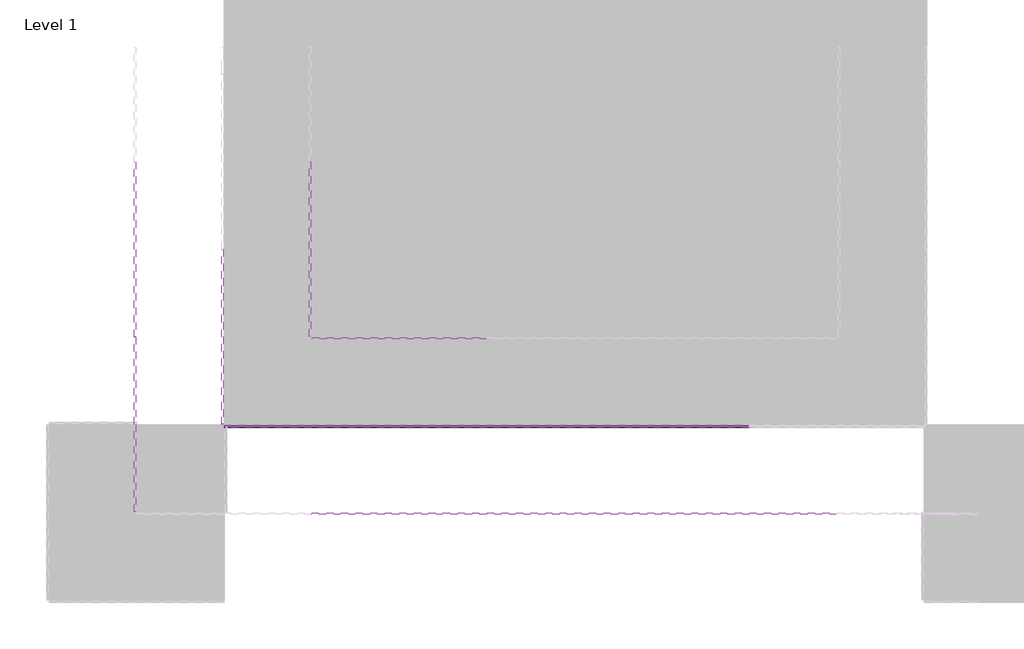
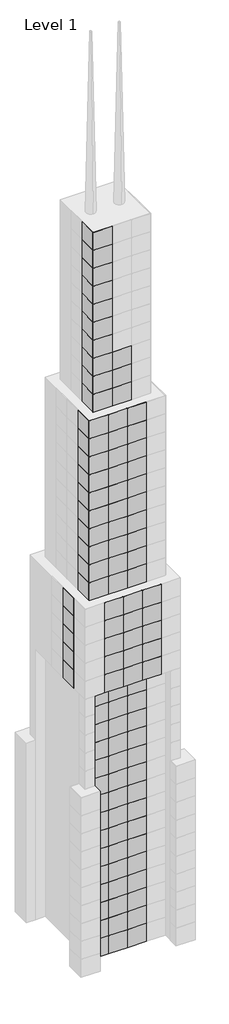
# One storey, part 5 of 15: 138 plates.
"""IFC4 building model written with IfcOpenShell, lengths in millimetres."""

from ifc_helpers import new_model, si_unit, origin, place, context, project, spatial, transform, mapped, element, save
from components import system_panel_glazed_0a0842ec, system_panel_glazed_aa64d645, system_panel_glazed_b248394d

model = new_model("IFC4")

# Units and contexts
model_context = context("Model", 3, world=origin())
ifc_project = project(units=[si_unit("LENGTHUNIT", "METRE", prefix="MILLI")], contexts=[model_context])

# Site, building, storey
site = spatial("IfcSite", under=ifc_project)
building = spatial("IfcBuilding", under=site)
storey = spatial("IfcBuildingStorey", under=building, Name="Level 1", Elevation=0.0)

# Plates
placement = place(None, origin())
system_panel_glazed_shape = system_panel_glazed_0a0842ec(model_context)
element("IfcPlate", 1, ObjectType="System Panel : Glazed", at=placement, inside=storey, context=model_context, shape_type="MappedRepresentation", body=[
    mapped(system_panel_glazed_shape, transform((36594.2903978, -3840.9095598, 45720.0), x_axis=(0.0, -1.0, 0.0), y_axis=(1.0, 0.0, 0.0), z_axis=(0.0, 0.0, 1.0))),
])
system_panel_glazed_2_shape = system_panel_glazed_aa64d645(model_context)
element("IfcPlate", 2, ObjectType="System Panel : Glazed", at=placement, inside=storey, context=model_context, shape_type="MappedRepresentation", body=[
    mapped(system_panel_glazed_2_shape, transform((41166.2903978, -5364.9095598, 45720.0), x_axis=(1.0, 0.0, 0.0), y_axis=(0.0, 1.0, 0.0), z_axis=(0.0, 0.0, 1.0))),
])
element("IfcPlate", 3, ObjectType="System Panel : Glazed", at=placement, inside=storey, context=model_context, shape_type="MappedRepresentation", body=[
    mapped(system_panel_glazed_2_shape, transform((44214.2903978, -5364.9095598, 45720.0), x_axis=(1.0, 0.0, 0.0), y_axis=(0.0, 1.0, 0.0), z_axis=(0.0, 0.0, 1.0))),
])
element("IfcPlate", 4, ObjectType="System Panel : Glazed", at=placement, inside=storey, context=model_context, shape_type="MappedRepresentation", body=[
    mapped(system_panel_glazed_2_shape, transform((47262.2903978, -5364.9095598, 45720.0), x_axis=(1.0, 0.0, 0.0), y_axis=(0.0, 1.0, 0.0), z_axis=(0.0, 0.0, 1.0))),
])
element("IfcPlate", 5, ObjectType="System Panel : Glazed", at=placement, inside=storey, context=model_context, shape_type="MappedRepresentation", body=[
    mapped(system_panel_glazed_2_shape, transform((41166.2903978, -5364.9095598, 48768.0), x_axis=(1.0, 0.0, 0.0), y_axis=(0.0, 1.0, 0.0), z_axis=(0.0, 0.0, 1.0))),
])
element("IfcPlate", 6, ObjectType="System Panel : Glazed", at=placement, inside=storey, context=model_context, shape_type="MappedRepresentation", body=[
    mapped(system_panel_glazed_2_shape, transform((44214.2903978, -5364.9095598, 48768.0), x_axis=(1.0, 0.0, 0.0), y_axis=(0.0, 1.0, 0.0), z_axis=(0.0, 0.0, 1.0))),
])
element("IfcPlate", 7, ObjectType="System Panel : Glazed", at=placement, inside=storey, context=model_context, shape_type="MappedRepresentation", body=[
    mapped(system_panel_glazed_2_shape, transform((47262.2903978, -5364.9095598, 48768.0), x_axis=(1.0, 0.0, 0.0), y_axis=(0.0, 1.0, 0.0), z_axis=(0.0, 0.0, 1.0))),
])
element("IfcPlate", 8, ObjectType="System Panel : Glazed", at=placement, inside=storey, context=model_context, shape_type="MappedRepresentation", body=[
    mapped(system_panel_glazed_2_shape, transform((41166.2903978, -5364.9095598, 51816.0), x_axis=(1.0, 0.0, 0.0), y_axis=(0.0, 1.0, 0.0), z_axis=(0.0, 0.0, 1.0))),
])
element("IfcPlate", 9, ObjectType="System Panel : Glazed", at=placement, inside=storey, context=model_context, shape_type="MappedRepresentation", body=[
    mapped(system_panel_glazed_2_shape, transform((44214.2903978, -5364.9095598, 51816.0), x_axis=(1.0, 0.0, 0.0), y_axis=(0.0, 1.0, 0.0), z_axis=(0.0, 0.0, 1.0))),
])
element("IfcPlate", 10, ObjectType="System Panel : Glazed", at=placement, inside=storey, context=model_context, shape_type="MappedRepresentation", body=[
    mapped(system_panel_glazed_2_shape, transform((47262.2903978, -5364.9095598, 51816.0), x_axis=(1.0, 0.0, 0.0), y_axis=(0.0, 1.0, 0.0), z_axis=(0.0, 0.0, 1.0))),
])
element("IfcPlate", 11, ObjectType="System Panel : Glazed", at=placement, inside=storey, context=model_context, shape_type="MappedRepresentation", body=[
    mapped(system_panel_glazed_2_shape, transform((41166.2903978, -5364.9095598, 54864.0), x_axis=(1.0, 0.0, 0.0), y_axis=(0.0, 1.0, 0.0), z_axis=(0.0, 0.0, 1.0))),
])
element("IfcPlate", 12, ObjectType="System Panel : Glazed", at=placement, inside=storey, context=model_context, shape_type="MappedRepresentation", body=[
    mapped(system_panel_glazed_2_shape, transform((44214.2903978, -5364.9095598, 54864.0), x_axis=(1.0, 0.0, 0.0), y_axis=(0.0, 1.0, 0.0), z_axis=(0.0, 0.0, 1.0))),
])
element("IfcPlate", 13, ObjectType="System Panel : Glazed", at=placement, inside=storey, context=model_context, shape_type="MappedRepresentation", body=[
    mapped(system_panel_glazed_2_shape, transform((47262.2903978, -5364.9095598, 54864.0), x_axis=(1.0, 0.0, 0.0), y_axis=(0.0, 1.0, 0.0), z_axis=(0.0, 0.0, 1.0))),
])
element("IfcPlate", 14, ObjectType="System Panel : Glazed", at=placement, inside=storey, context=model_context, shape_type="MappedRepresentation", body=[
    mapped(system_panel_glazed_2_shape, transform((41166.2903978, -5364.9095598, 57912.0), x_axis=(1.0, 0.0, 0.0), y_axis=(0.0, 1.0, 0.0), z_axis=(0.0, 0.0, 1.0))),
])
element("IfcPlate", 15, ObjectType="System Panel : Glazed", at=placement, inside=storey, context=model_context, shape_type="MappedRepresentation", body=[
    mapped(system_panel_glazed_2_shape, transform((44214.2903978, -5364.9095598, 57912.0), x_axis=(1.0, 0.0, 0.0), y_axis=(0.0, 1.0, 0.0), z_axis=(0.0, 0.0, 1.0))),
])
element("IfcPlate", 16, ObjectType="System Panel : Glazed", at=placement, inside=storey, context=model_context, shape_type="MappedRepresentation", body=[
    mapped(system_panel_glazed_2_shape, transform((47262.2903978, -5364.9095598, 57912.0), x_axis=(1.0, 0.0, 0.0), y_axis=(0.0, 1.0, 0.0), z_axis=(0.0, 0.0, 1.0))),
])
element("IfcPlate", 17, ObjectType="System Panel : Glazed", at=placement, inside=storey, context=model_context, shape_type="MappedRepresentation", body=[
    mapped(system_panel_glazed_2_shape, transform((36594.2903978, -792.9095598, 45720.0), x_axis=(0.0, -1.0, 0.0), y_axis=(1.0, 0.0, 0.0), z_axis=(0.0, 0.0, 1.0))),
])
element("IfcPlate", 18, ObjectType="System Panel : Glazed", at=placement, inside=storey, context=model_context, shape_type="MappedRepresentation", body=[
    mapped(system_panel_glazed_2_shape, transform((36594.2903978, -792.9095598, 48768.0), x_axis=(0.0, -1.0, 0.0), y_axis=(1.0, 0.0, 0.0), z_axis=(0.0, 0.0, 1.0))),
])
element("IfcPlate", 19, ObjectType="System Panel : Glazed", at=placement, inside=storey, context=model_context, shape_type="MappedRepresentation", body=[
    mapped(system_panel_glazed_2_shape, transform((36594.2903978, -792.9095598, 51816.0), x_axis=(0.0, -1.0, 0.0), y_axis=(1.0, 0.0, 0.0), z_axis=(0.0, 0.0, 1.0))),
])
element("IfcPlate", 20, ObjectType="System Panel : Glazed", at=placement, inside=storey, context=model_context, shape_type="MappedRepresentation", body=[
    mapped(system_panel_glazed_2_shape, transform((36594.2903978, -792.9095598, 54864.0), x_axis=(0.0, -1.0, 0.0), y_axis=(1.0, 0.0, 0.0), z_axis=(0.0, 0.0, 1.0))),
])
element("IfcPlate", 21, ObjectType="System Panel : Glazed", at=placement, inside=storey, context=model_context, shape_type="MappedRepresentation", body=[
    mapped(system_panel_glazed_2_shape, transform((36594.2903978, -792.9095598, 57912.0), x_axis=(0.0, -1.0, 0.0), y_axis=(1.0, 0.0, 0.0), z_axis=(0.0, 0.0, 1.0))),
])
element("IfcPlate", 22, ObjectType="System Panel : Glazed", at=placement, inside=storey, context=model_context, shape_type="MappedRepresentation", body=[
    mapped(system_panel_glazed_2_shape, transform((39642.2903978, -3840.9095598, 60960.0), x_axis=(1.0, 0.0, 0.0), y_axis=(0.0, 1.0, 0.0), z_axis=(0.0, 0.0, 1.0))),
])
element("IfcPlate", 23, ObjectType="System Panel : Glazed", at=placement, inside=storey, context=model_context, shape_type="MappedRepresentation", body=[
    mapped(system_panel_glazed_2_shape, transform((42690.2903978, -3840.9095598, 60960.0), x_axis=(1.0, 0.0, 0.0), y_axis=(0.0, 1.0, 0.0), z_axis=(0.0, 0.0, 1.0))),
])
element("IfcPlate", 24, ObjectType="System Panel : Glazed", at=placement, inside=storey, context=model_context, shape_type="MappedRepresentation", body=[
    mapped(system_panel_glazed_2_shape, transform((45738.2903978, -3840.9095598, 60960.0), x_axis=(1.0, 0.0, 0.0), y_axis=(0.0, 1.0, 0.0), z_axis=(0.0, 0.0, 1.0))),
])
element("IfcPlate", 25, ObjectType="System Panel : Glazed", at=placement, inside=storey, context=model_context, shape_type="MappedRepresentation", body=[
    mapped(system_panel_glazed_2_shape, transform((39642.2903978, -3840.9095598, 64008.0), x_axis=(1.0, 0.0, 0.0), y_axis=(0.0, 1.0, 0.0), z_axis=(0.0, 0.0, 1.0))),
])
element("IfcPlate", 26, ObjectType="System Panel : Glazed", at=placement, inside=storey, context=model_context, shape_type="MappedRepresentation", body=[
    mapped(system_panel_glazed_2_shape, transform((42690.2903978, -3840.9095598, 64008.0), x_axis=(1.0, 0.0, 0.0), y_axis=(0.0, 1.0, 0.0), z_axis=(0.0, 0.0, 1.0))),
])
element("IfcPlate", 27, ObjectType="System Panel : Glazed", at=placement, inside=storey, context=model_context, shape_type="MappedRepresentation", body=[
    mapped(system_panel_glazed_2_shape, transform((45738.2903978, -3840.9095598, 64008.0), x_axis=(1.0, 0.0, 0.0), y_axis=(0.0, 1.0, 0.0), z_axis=(0.0, 0.0, 1.0))),
])
element("IfcPlate", 28, ObjectType="System Panel : Glazed", at=placement, inside=storey, context=model_context, shape_type="MappedRepresentation", body=[
    mapped(system_panel_glazed_2_shape, transform((39642.2903978, -3840.9095598, 67056.0), x_axis=(1.0, 0.0, 0.0), y_axis=(0.0, 1.0, 0.0), z_axis=(0.0, 0.0, 1.0))),
])
element("IfcPlate", 29, ObjectType="System Panel : Glazed", at=placement, inside=storey, context=model_context, shape_type="MappedRepresentation", body=[
    mapped(system_panel_glazed_2_shape, transform((42690.2903978, -3840.9095598, 67056.0), x_axis=(1.0, 0.0, 0.0), y_axis=(0.0, 1.0, 0.0), z_axis=(0.0, 0.0, 1.0))),
])
element("IfcPlate", 30, ObjectType="System Panel : Glazed", at=placement, inside=storey, context=model_context, shape_type="MappedRepresentation", body=[
    mapped(system_panel_glazed_2_shape, transform((45738.2903978, -3840.9095598, 67056.0), x_axis=(1.0, 0.0, 0.0), y_axis=(0.0, 1.0, 0.0), z_axis=(0.0, 0.0, 1.0))),
])
element("IfcPlate", 31, ObjectType="System Panel : Glazed", at=placement, inside=storey, context=model_context, shape_type="MappedRepresentation", body=[
    mapped(system_panel_glazed_2_shape, transform((39642.2903978, -3840.9095598, 70104.0), x_axis=(1.0, 0.0, 0.0), y_axis=(0.0, 1.0, 0.0), z_axis=(0.0, 0.0, 1.0))),
])
element("IfcPlate", 32, ObjectType="System Panel : Glazed", at=placement, inside=storey, context=model_context, shape_type="MappedRepresentation", body=[
    mapped(system_panel_glazed_2_shape, transform((42690.2903978, -3840.9095598, 70104.0), x_axis=(1.0, 0.0, 0.0), y_axis=(0.0, 1.0, 0.0), z_axis=(0.0, 0.0, 1.0))),
])
element("IfcPlate", 33, ObjectType="System Panel : Glazed", at=placement, inside=storey, context=model_context, shape_type="MappedRepresentation", body=[
    mapped(system_panel_glazed_2_shape, transform((45738.2903978, -3840.9095598, 70104.0), x_axis=(1.0, 0.0, 0.0), y_axis=(0.0, 1.0, 0.0), z_axis=(0.0, 0.0, 1.0))),
])
element("IfcPlate", 34, ObjectType="System Panel : Glazed", at=placement, inside=storey, context=model_context, shape_type="MappedRepresentation", body=[
    mapped(system_panel_glazed_2_shape, transform((39642.2903978, -3840.9095598, 73152.0), x_axis=(1.0, 0.0, 0.0), y_axis=(0.0, 1.0, 0.0), z_axis=(0.0, 0.0, 1.0))),
])
element("IfcPlate", 35, ObjectType="System Panel : Glazed", at=placement, inside=storey, context=model_context, shape_type="MappedRepresentation", body=[
    mapped(system_panel_glazed_2_shape, transform((42690.2903978, -3840.9095598, 73152.0), x_axis=(1.0, 0.0, 0.0), y_axis=(0.0, 1.0, 0.0), z_axis=(0.0, 0.0, 1.0))),
])
element("IfcPlate", 36, ObjectType="System Panel : Glazed", at=placement, inside=storey, context=model_context, shape_type="MappedRepresentation", body=[
    mapped(system_panel_glazed_2_shape, transform((45738.2903978, -3840.9095598, 73152.0), x_axis=(1.0, 0.0, 0.0), y_axis=(0.0, 1.0, 0.0), z_axis=(0.0, 0.0, 1.0))),
])
element("IfcPlate", 37, ObjectType="System Panel : Glazed", at=placement, inside=storey, context=model_context, shape_type="MappedRepresentation", body=[
    mapped(system_panel_glazed_2_shape, transform((39642.2903978, -3840.9095598, 76200.0), x_axis=(1.0, 0.0, 0.0), y_axis=(0.0, 1.0, 0.0), z_axis=(0.0, 0.0, 1.0))),
])
element("IfcPlate", 38, ObjectType="System Panel : Glazed", at=placement, inside=storey, context=model_context, shape_type="MappedRepresentation", body=[
    mapped(system_panel_glazed_2_shape, transform((42690.2903978, -3840.9095598, 76200.0), x_axis=(1.0, 0.0, 0.0), y_axis=(0.0, 1.0, 0.0), z_axis=(0.0, 0.0, 1.0))),
])
element("IfcPlate", 39, ObjectType="System Panel : Glazed", at=placement, inside=storey, context=model_context, shape_type="MappedRepresentation", body=[
    mapped(system_panel_glazed_2_shape, transform((45738.2903978, -3840.9095598, 76200.0), x_axis=(1.0, 0.0, 0.0), y_axis=(0.0, 1.0, 0.0), z_axis=(0.0, 0.0, 1.0))),
])
element("IfcPlate", 40, ObjectType="System Panel : Glazed", at=placement, inside=storey, context=model_context, shape_type="MappedRepresentation", body=[
    mapped(system_panel_glazed_2_shape, transform((39642.2903978, -3840.9095598, 79248.0), x_axis=(1.0, 0.0, 0.0), y_axis=(0.0, 1.0, 0.0), z_axis=(0.0, 0.0, 1.0))),
])
element("IfcPlate", 41, ObjectType="System Panel : Glazed", at=placement, inside=storey, context=model_context, shape_type="MappedRepresentation", body=[
    mapped(system_panel_glazed_2_shape, transform((42690.2903978, -3840.9095598, 79248.0), x_axis=(1.0, 0.0, 0.0), y_axis=(0.0, 1.0, 0.0), z_axis=(0.0, 0.0, 1.0))),
])
element("IfcPlate", 42, ObjectType="System Panel : Glazed", at=placement, inside=storey, context=model_context, shape_type="MappedRepresentation", body=[
    mapped(system_panel_glazed_2_shape, transform((45738.2903978, -3840.9095598, 79248.0), x_axis=(1.0, 0.0, 0.0), y_axis=(0.0, 1.0, 0.0), z_axis=(0.0, 0.0, 1.0))),
])
element("IfcPlate", 43, ObjectType="System Panel : Glazed", at=placement, inside=storey, context=model_context, shape_type="MappedRepresentation", body=[
    mapped(system_panel_glazed_2_shape, transform((39642.2903978, -3840.9095598, 82296.0), x_axis=(1.0, 0.0, 0.0), y_axis=(0.0, 1.0, 0.0), z_axis=(0.0, 0.0, 1.0))),
])
element("IfcPlate", 44, ObjectType="System Panel : Glazed", at=placement, inside=storey, context=model_context, shape_type="MappedRepresentation", body=[
    mapped(system_panel_glazed_2_shape, transform((42690.2903978, -3840.9095598, 82296.0), x_axis=(1.0, 0.0, 0.0), y_axis=(0.0, 1.0, 0.0), z_axis=(0.0, 0.0, 1.0))),
])
element("IfcPlate", 45, ObjectType="System Panel : Glazed", at=placement, inside=storey, context=model_context, shape_type="MappedRepresentation", body=[
    mapped(system_panel_glazed_2_shape, transform((45738.2903978, -3840.9095598, 82296.0), x_axis=(1.0, 0.0, 0.0), y_axis=(0.0, 1.0, 0.0), z_axis=(0.0, 0.0, 1.0))),
])
element("IfcPlate", 46, ObjectType="System Panel : Glazed", at=placement, inside=storey, context=model_context, shape_type="MappedRepresentation", body=[
    mapped(system_panel_glazed_2_shape, transform((39642.2903978, -3840.9095598, 85344.0), x_axis=(1.0, 0.0, 0.0), y_axis=(0.0, 1.0, 0.0), z_axis=(0.0, 0.0, 1.0))),
])
element("IfcPlate", 47, ObjectType="System Panel : Glazed", at=placement, inside=storey, context=model_context, shape_type="MappedRepresentation", body=[
    mapped(system_panel_glazed_2_shape, transform((42690.2903978, -3840.9095598, 85344.0), x_axis=(1.0, 0.0, 0.0), y_axis=(0.0, 1.0, 0.0), z_axis=(0.0, 0.0, 1.0))),
])
element("IfcPlate", 48, ObjectType="System Panel : Glazed", at=placement, inside=storey, context=model_context, shape_type="MappedRepresentation", body=[
    mapped(system_panel_glazed_2_shape, transform((45738.2903978, -3840.9095598, 85344.0), x_axis=(1.0, 0.0, 0.0), y_axis=(0.0, 1.0, 0.0), z_axis=(0.0, 0.0, 1.0))),
])
element("IfcPlate", 49, ObjectType="System Panel : Glazed", at=placement, inside=storey, context=model_context, shape_type="MappedRepresentation", body=[
    mapped(system_panel_glazed_2_shape, transform((39642.2903978, -3840.9095598, 88392.0), x_axis=(1.0, 0.0, 0.0), y_axis=(0.0, 1.0, 0.0), z_axis=(0.0, 0.0, 1.0))),
])
element("IfcPlate", 50, ObjectType="System Panel : Glazed", at=placement, inside=storey, context=model_context, shape_type="MappedRepresentation", body=[
    mapped(system_panel_glazed_2_shape, transform((42690.2903978, -3840.9095598, 88392.0), x_axis=(1.0, 0.0, 0.0), y_axis=(0.0, 1.0, 0.0), z_axis=(0.0, 0.0, 1.0))),
])
element("IfcPlate", 51, ObjectType="System Panel : Glazed", at=placement, inside=storey, context=model_context, shape_type="MappedRepresentation", body=[
    mapped(system_panel_glazed_2_shape, transform((45738.2903978, -3840.9095598, 88392.0), x_axis=(1.0, 0.0, 0.0), y_axis=(0.0, 1.0, 0.0), z_axis=(0.0, 0.0, 1.0))),
])
element("IfcPlate", 52, ObjectType="System Panel : Glazed", at=placement, inside=storey, context=model_context, shape_type="MappedRepresentation", body=[
    mapped(system_panel_glazed_2_shape, transform((38118.2903978, -2316.9095598, 60960.0), x_axis=(0.0, -1.0, 0.0), y_axis=(1.0, 0.0, 0.0), z_axis=(0.0, 0.0, 1.0))),
])
element("IfcPlate", 53, ObjectType="System Panel : Glazed", at=placement, inside=storey, context=model_context, shape_type="MappedRepresentation", body=[
    mapped(system_panel_glazed_2_shape, transform((38118.2903978, -2316.9095598, 64008.0), x_axis=(0.0, -1.0, 0.0), y_axis=(1.0, 0.0, 0.0), z_axis=(0.0, 0.0, 1.0))),
])
element("IfcPlate", 54, ObjectType="System Panel : Glazed", at=placement, inside=storey, context=model_context, shape_type="MappedRepresentation", body=[
    mapped(system_panel_glazed_2_shape, transform((38118.2903978, -2316.9095598, 67056.0), x_axis=(0.0, -1.0, 0.0), y_axis=(1.0, 0.0, 0.0), z_axis=(0.0, 0.0, 1.0))),
])
element("IfcPlate", 55, ObjectType="System Panel : Glazed", at=placement, inside=storey, context=model_context, shape_type="MappedRepresentation", body=[
    mapped(system_panel_glazed_2_shape, transform((38118.2903978, -2316.9095598, 70104.0), x_axis=(0.0, -1.0, 0.0), y_axis=(1.0, 0.0, 0.0), z_axis=(0.0, 0.0, 1.0))),
])
element("IfcPlate", 56, ObjectType="System Panel : Glazed", at=placement, inside=storey, context=model_context, shape_type="MappedRepresentation", body=[
    mapped(system_panel_glazed_2_shape, transform((38118.2903978, -2316.9095598, 73152.0), x_axis=(0.0, -1.0, 0.0), y_axis=(1.0, 0.0, 0.0), z_axis=(0.0, 0.0, 1.0))),
])
element("IfcPlate", 57, ObjectType="System Panel : Glazed", at=placement, inside=storey, context=model_context, shape_type="MappedRepresentation", body=[
    mapped(system_panel_glazed_2_shape, transform((38118.2903978, -2316.9095598, 76200.0), x_axis=(0.0, -1.0, 0.0), y_axis=(1.0, 0.0, 0.0), z_axis=(0.0, 0.0, 1.0))),
])
element("IfcPlate", 58, ObjectType="System Panel : Glazed", at=placement, inside=storey, context=model_context, shape_type="MappedRepresentation", body=[
    mapped(system_panel_glazed_2_shape, transform((38118.2903978, -2316.9095598, 79248.0), x_axis=(0.0, -1.0, 0.0), y_axis=(1.0, 0.0, 0.0), z_axis=(0.0, 0.0, 1.0))),
])
element("IfcPlate", 59, ObjectType="System Panel : Glazed", at=placement, inside=storey, context=model_context, shape_type="MappedRepresentation", body=[
    mapped(system_panel_glazed_2_shape, transform((38118.2903978, -2316.9095598, 82296.0), x_axis=(0.0, -1.0, 0.0), y_axis=(1.0, 0.0, 0.0), z_axis=(0.0, 0.0, 1.0))),
])
element("IfcPlate", 60, ObjectType="System Panel : Glazed", at=placement, inside=storey, context=model_context, shape_type="MappedRepresentation", body=[
    mapped(system_panel_glazed_2_shape, transform((38118.2903978, -2316.9095598, 85344.0), x_axis=(0.0, -1.0, 0.0), y_axis=(1.0, 0.0, 0.0), z_axis=(0.0, 0.0, 1.0))),
])
element("IfcPlate", 61, ObjectType="System Panel : Glazed", at=placement, inside=storey, context=model_context, shape_type="MappedRepresentation", body=[
    mapped(system_panel_glazed_2_shape, transform((38118.2903978, -2316.9095598, 88392.0), x_axis=(0.0, -1.0, 0.0), y_axis=(1.0, 0.0, 0.0), z_axis=(0.0, 0.0, 1.0))),
])
element("IfcPlate", 62, ObjectType="System Panel : Glazed", at=placement, inside=storey, context=model_context, shape_type="MappedRepresentation", body=[
    mapped(system_panel_glazed_2_shape, transform((41171.8576677, -2316.9095598, 91440.0), x_axis=(1.0, 0.0, 0.0), y_axis=(0.0, 1.0, 0.0), z_axis=(0.0, 0.0, 1.0))),
])
element("IfcPlate", 63, ObjectType="System Panel : Glazed", at=placement, inside=storey, context=model_context, shape_type="MappedRepresentation", body=[
    mapped(system_panel_glazed_2_shape, transform((44219.8576677, -2316.9095598, 91440.0), x_axis=(1.0, 0.0, 0.0), y_axis=(0.0, 1.0, 0.0), z_axis=(0.0, 0.0, 1.0))),
])
element("IfcPlate", 64, ObjectType="System Panel : Glazed", at=placement, inside=storey, context=model_context, shape_type="MappedRepresentation", body=[
    mapped(system_panel_glazed_2_shape, transform((41171.8576677, -2316.9095598, 94488.0), x_axis=(1.0, 0.0, 0.0), y_axis=(0.0, 1.0, 0.0), z_axis=(0.0, 0.0, 1.0))),
])
element("IfcPlate", 65, ObjectType="System Panel : Glazed", at=placement, inside=storey, context=model_context, shape_type="MappedRepresentation", body=[
    mapped(system_panel_glazed_2_shape, transform((44219.8576677, -2316.9095598, 94488.0), x_axis=(1.0, 0.0, 0.0), y_axis=(0.0, 1.0, 0.0), z_axis=(0.0, 0.0, 1.0))),
])
element("IfcPlate", 66, ObjectType="System Panel : Glazed", at=placement, inside=storey, context=model_context, shape_type="MappedRepresentation", body=[
    mapped(system_panel_glazed_2_shape, transform((41171.8576677, -2316.9095598, 97536.0), x_axis=(1.0, 0.0, 0.0), y_axis=(0.0, 1.0, 0.0), z_axis=(0.0, 0.0, 1.0))),
])
element("IfcPlate", 67, ObjectType="System Panel : Glazed", at=placement, inside=storey, context=model_context, shape_type="MappedRepresentation", body=[
    mapped(system_panel_glazed_2_shape, transform((44219.8576677, -2316.9095598, 97536.0), x_axis=(1.0, 0.0, 0.0), y_axis=(0.0, 1.0, 0.0), z_axis=(0.0, 0.0, 1.0))),
])
element("IfcPlate", 68, ObjectType="System Panel : Glazed", at=placement, inside=storey, context=model_context, shape_type="MappedRepresentation", body=[
    mapped(system_panel_glazed_2_shape, transform((41171.8576677, -2316.9095598, 100584.0), x_axis=(1.0, 0.0, 0.0), y_axis=(0.0, 1.0, 0.0), z_axis=(0.0, 0.0, 1.0))),
])
element("IfcPlate", 69, ObjectType="System Panel : Glazed", at=placement, inside=storey, context=model_context, shape_type="MappedRepresentation", body=[
    mapped(system_panel_glazed_2_shape, transform((41171.8576677, -2316.9095598, 103632.0), x_axis=(1.0, 0.0, 0.0), y_axis=(0.0, 1.0, 0.0), z_axis=(0.0, 0.0, 1.0))),
])
element("IfcPlate", 70, ObjectType="System Panel : Glazed", at=placement, inside=storey, context=model_context, shape_type="MappedRepresentation", body=[
    mapped(system_panel_glazed_2_shape, transform((41171.8576677, -2316.9095598, 106680.0), x_axis=(1.0, 0.0, 0.0), y_axis=(0.0, 1.0, 0.0), z_axis=(0.0, 0.0, 1.0))),
])
element("IfcPlate", 71, ObjectType="System Panel : Glazed", at=placement, inside=storey, context=model_context, shape_type="MappedRepresentation", body=[
    mapped(system_panel_glazed_2_shape, transform((41171.8576677, -2316.9095598, 109728.0), x_axis=(1.0, 0.0, 0.0), y_axis=(0.0, 1.0, 0.0), z_axis=(0.0, 0.0, 1.0))),
])
element("IfcPlate", 72, ObjectType="System Panel : Glazed", at=placement, inside=storey, context=model_context, shape_type="MappedRepresentation", body=[
    mapped(system_panel_glazed_2_shape, transform((41171.8576677, -2316.9095598, 112776.0), x_axis=(1.0, 0.0, 0.0), y_axis=(0.0, 1.0, 0.0), z_axis=(0.0, 0.0, 1.0))),
])
element("IfcPlate", 73, ObjectType="System Panel : Glazed", at=placement, inside=storey, context=model_context, shape_type="MappedRepresentation", body=[
    mapped(system_panel_glazed_2_shape, transform((41171.8576677, -2316.9095598, 115824.0), x_axis=(1.0, 0.0, 0.0), y_axis=(0.0, 1.0, 0.0), z_axis=(0.0, 0.0, 1.0))),
])
element("IfcPlate", 74, ObjectType="System Panel : Glazed", at=placement, inside=storey, context=model_context, shape_type="MappedRepresentation", body=[
    mapped(system_panel_glazed_2_shape, transform((41171.8576677, -2316.9095598, 118872.0), x_axis=(1.0, 0.0, 0.0), y_axis=(0.0, 1.0, 0.0), z_axis=(0.0, 0.0, 1.0))),
])
element("IfcPlate", 75, ObjectType="System Panel : Glazed", at=placement, inside=storey, context=model_context, shape_type="MappedRepresentation", body=[
    mapped(system_panel_glazed_2_shape, transform((39647.8576677, -792.9095598, 91440.0), x_axis=(0.0, -1.0, 0.0), y_axis=(1.0, 0.0, 0.0), z_axis=(0.0, 0.0, 1.0))),
])
element("IfcPlate", 76, ObjectType="System Panel : Glazed", at=placement, inside=storey, context=model_context, shape_type="MappedRepresentation", body=[
    mapped(system_panel_glazed_2_shape, transform((39647.8576677, -792.9095598, 94488.0), x_axis=(0.0, -1.0, 0.0), y_axis=(1.0, 0.0, 0.0), z_axis=(0.0, 0.0, 1.0))),
])
element("IfcPlate", 77, ObjectType="System Panel : Glazed", at=placement, inside=storey, context=model_context, shape_type="MappedRepresentation", body=[
    mapped(system_panel_glazed_2_shape, transform((39647.8576677, -792.9095598, 97536.0), x_axis=(0.0, -1.0, 0.0), y_axis=(1.0, 0.0, 0.0), z_axis=(0.0, 0.0, 1.0))),
])
element("IfcPlate", 78, ObjectType="System Panel : Glazed", at=placement, inside=storey, context=model_context, shape_type="MappedRepresentation", body=[
    mapped(system_panel_glazed_2_shape, transform((39647.8576677, -792.9095598, 100584.0), x_axis=(0.0, -1.0, 0.0), y_axis=(1.0, 0.0, 0.0), z_axis=(0.0, 0.0, 1.0))),
])
element("IfcPlate", 79, ObjectType="System Panel : Glazed", at=placement, inside=storey, context=model_context, shape_type="MappedRepresentation", body=[
    mapped(system_panel_glazed_2_shape, transform((39647.8576677, -792.9095598, 103632.0), x_axis=(0.0, -1.0, 0.0), y_axis=(1.0, 0.0, 0.0), z_axis=(0.0, 0.0, 1.0))),
])
element("IfcPlate", 80, ObjectType="System Panel : Glazed", at=placement, inside=storey, context=model_context, shape_type="MappedRepresentation", body=[
    mapped(system_panel_glazed_2_shape, transform((39647.8576677, -792.9095598, 106680.0), x_axis=(0.0, -1.0, 0.0), y_axis=(1.0, 0.0, 0.0), z_axis=(0.0, 0.0, 1.0))),
])
element("IfcPlate", 81, ObjectType="System Panel : Glazed", at=placement, inside=storey, context=model_context, shape_type="MappedRepresentation", body=[
    mapped(system_panel_glazed_2_shape, transform((39647.8576677, -792.9095598, 109728.0), x_axis=(0.0, -1.0, 0.0), y_axis=(1.0, 0.0, 0.0), z_axis=(0.0, 0.0, 1.0))),
])
element("IfcPlate", 82, ObjectType="System Panel : Glazed", at=placement, inside=storey, context=model_context, shape_type="MappedRepresentation", body=[
    mapped(system_panel_glazed_2_shape, transform((39647.8576677, -792.9095598, 112776.0), x_axis=(0.0, -1.0, 0.0), y_axis=(1.0, 0.0, 0.0), z_axis=(0.0, 0.0, 1.0))),
])
element("IfcPlate", 83, ObjectType="System Panel : Glazed", at=placement, inside=storey, context=model_context, shape_type="MappedRepresentation", body=[
    mapped(system_panel_glazed_2_shape, transform((39647.8576677, -792.9095598, 115824.0), x_axis=(0.0, -1.0, 0.0), y_axis=(1.0, 0.0, 0.0), z_axis=(0.0, 0.0, 1.0))),
])
element("IfcPlate", 84, ObjectType="System Panel : Glazed", at=placement, inside=storey, context=model_context, shape_type="MappedRepresentation", body=[
    mapped(system_panel_glazed_2_shape, transform((39647.8576677, -792.9095598, 118872.0), x_axis=(0.0, -1.0, 0.0), y_axis=(1.0, 0.0, 0.0), z_axis=(0.0, 0.0, 1.0))),
])
element("IfcPlate", 85, ObjectType="System Panel : Glazed", at=placement, inside=storey, context=model_context, shape_type="MappedRepresentation", body=[
    mapped(system_panel_glazed_2_shape, transform((36594.2903978, -792.9095598, 45720.0), x_axis=(0.0, -1.0, 0.0), y_axis=(1.0, 0.0, 0.0), z_axis=(0.0, 0.0, 1.0))),
])
element("IfcPlate", 86, ObjectType="System Panel : Glazed", at=placement, inside=storey, context=model_context, shape_type="MappedRepresentation", body=[
    mapped(system_panel_glazed_2_shape, transform((36594.2903978, -792.9095598, 48768.0), x_axis=(0.0, -1.0, 0.0), y_axis=(1.0, 0.0, 0.0), z_axis=(0.0, 0.0, 1.0))),
])
element("IfcPlate", 87, ObjectType="System Panel : Glazed", at=placement, inside=storey, context=model_context, shape_type="MappedRepresentation", body=[
    mapped(system_panel_glazed_2_shape, transform((36594.2903978, -3840.9095598, 48768.0), x_axis=(0.0, -1.0, 0.0), y_axis=(1.0, 0.0, 0.0), z_axis=(0.0, 0.0, 1.0))),
])
element("IfcPlate", 88, ObjectType="System Panel : Glazed", at=placement, inside=storey, context=model_context, shape_type="MappedRepresentation", body=[
    mapped(system_panel_glazed_2_shape, transform((36594.2903978, -792.9095598, 51816.0), x_axis=(0.0, -1.0, 0.0), y_axis=(1.0, 0.0, 0.0), z_axis=(0.0, 0.0, 1.0))),
])
element("IfcPlate", 89, ObjectType="System Panel : Glazed", at=placement, inside=storey, context=model_context, shape_type="MappedRepresentation", body=[
    mapped(system_panel_glazed_2_shape, transform((36594.2903978, -3840.9095598, 51816.0), x_axis=(0.0, -1.0, 0.0), y_axis=(1.0, 0.0, 0.0), z_axis=(0.0, 0.0, 1.0))),
])
element("IfcPlate", 90, ObjectType="System Panel : Glazed", at=placement, inside=storey, context=model_context, shape_type="MappedRepresentation", body=[
    mapped(system_panel_glazed_2_shape, transform((36594.2903978, -792.9095598, 54864.0), x_axis=(0.0, -1.0, 0.0), y_axis=(1.0, 0.0, 0.0), z_axis=(0.0, 0.0, 1.0))),
])
element("IfcPlate", 91, ObjectType="System Panel : Glazed", at=placement, inside=storey, context=model_context, shape_type="MappedRepresentation", body=[
    mapped(system_panel_glazed_2_shape, transform((36594.2903978, -3840.9095598, 54864.0), x_axis=(0.0, -1.0, 0.0), y_axis=(1.0, 0.0, 0.0), z_axis=(0.0, 0.0, 1.0))),
])
element("IfcPlate", 92, ObjectType="System Panel : Glazed", at=placement, inside=storey, context=model_context, shape_type="MappedRepresentation", body=[
    mapped(system_panel_glazed_2_shape, transform((36594.2903978, -792.9095598, 57912.0), x_axis=(0.0, -1.0, 0.0), y_axis=(1.0, 0.0, 0.0), z_axis=(0.0, 0.0, 1.0))),
])
element("IfcPlate", 93, ObjectType="System Panel : Glazed", at=placement, inside=storey, context=model_context, shape_type="MappedRepresentation", body=[
    mapped(system_panel_glazed_2_shape, transform((36594.2903978, -3840.9095598, 57912.0), x_axis=(0.0, -1.0, 0.0), y_axis=(1.0, 0.0, 0.0), z_axis=(0.0, 0.0, 1.0))),
])
system_panel_glazed_3_shape = system_panel_glazed_b248394d(model_context)
element("IfcPlate", 94, ObjectType="System Panel : Glazed", at=placement, inside=storey, context=model_context, shape_type="MappedRepresentation", body=[
    mapped(system_panel_glazed_3_shape, transform((45738.2903978, -3840.9095598, 0.0), x_axis=(-1.0, 0.0, 0.0), y_axis=(0.0, -1.0, 0.0), z_axis=(0.0, 0.0, 1.0))),
])
element("IfcPlate", 95, ObjectType="System Panel : Glazed", at=placement, inside=storey, context=model_context, shape_type="MappedRepresentation", body=[
    mapped(system_panel_glazed_3_shape, transform((42690.2903978, -3840.9095598, 0.0), x_axis=(-1.0, 0.0, 0.0), y_axis=(0.0, -1.0, 0.0), z_axis=(0.0, 0.0, 1.0))),
])
element("IfcPlate", 96, ObjectType="System Panel : Glazed", at=placement, inside=storey, context=model_context, shape_type="MappedRepresentation", body=[
    mapped(system_panel_glazed_3_shape, transform((39642.2903978, -3840.9095598, 0.0), x_axis=(-1.0, 0.0, 0.0), y_axis=(0.0, -1.0, 0.0), z_axis=(0.0, 0.0, 1.0))),
])
element("IfcPlate", 97, ObjectType="System Panel : Glazed", at=placement, inside=storey, context=model_context, shape_type="MappedRepresentation", body=[
    mapped(system_panel_glazed_3_shape, transform((45738.2903978, -3840.9095598, 3048.0), x_axis=(-1.0, 0.0, 0.0), y_axis=(0.0, -1.0, 0.0), z_axis=(0.0, 0.0, 1.0))),
])
element("IfcPlate", 98, ObjectType="System Panel : Glazed", at=placement, inside=storey, context=model_context, shape_type="MappedRepresentation", body=[
    mapped(system_panel_glazed_3_shape, transform((42690.2903978, -3840.9095598, 3048.0), x_axis=(-1.0, 0.0, 0.0), y_axis=(0.0, -1.0, 0.0), z_axis=(0.0, 0.0, 1.0))),
])
element("IfcPlate", 99, ObjectType="System Panel : Glazed", at=placement, inside=storey, context=model_context, shape_type="MappedRepresentation", body=[
    mapped(system_panel_glazed_3_shape, transform((39642.2903978, -3840.9095598, 3048.0), x_axis=(-1.0, 0.0, 0.0), y_axis=(0.0, -1.0, 0.0), z_axis=(0.0, 0.0, 1.0))),
])
element("IfcPlate", 100, ObjectType="System Panel : Glazed", at=placement, inside=storey, context=model_context, shape_type="MappedRepresentation", body=[
    mapped(system_panel_glazed_3_shape, transform((45738.2903978, -3840.9095598, 6096.0), x_axis=(-1.0, 0.0, 0.0), y_axis=(0.0, -1.0, 0.0), z_axis=(0.0, 0.0, 1.0))),
])
element("IfcPlate", 101, ObjectType="System Panel : Glazed", at=placement, inside=storey, context=model_context, shape_type="MappedRepresentation", body=[
    mapped(system_panel_glazed_3_shape, transform((42690.2903978, -3840.9095598, 6096.0), x_axis=(-1.0, 0.0, 0.0), y_axis=(0.0, -1.0, 0.0), z_axis=(0.0, 0.0, 1.0))),
])
element("IfcPlate", 102, ObjectType="System Panel : Glazed", at=placement, inside=storey, context=model_context, shape_type="MappedRepresentation", body=[
    mapped(system_panel_glazed_3_shape, transform((39642.2903978, -3840.9095598, 6096.0), x_axis=(-1.0, 0.0, 0.0), y_axis=(0.0, -1.0, 0.0), z_axis=(0.0, 0.0, 1.0))),
])
element("IfcPlate", 103, ObjectType="System Panel : Glazed", at=placement, inside=storey, context=model_context, shape_type="MappedRepresentation", body=[
    mapped(system_panel_glazed_3_shape, transform((45738.2903978, -3840.9095598, 9144.0), x_axis=(-1.0, 0.0, 0.0), y_axis=(0.0, -1.0, 0.0), z_axis=(0.0, 0.0, 1.0))),
])
element("IfcPlate", 104, ObjectType="System Panel : Glazed", at=placement, inside=storey, context=model_context, shape_type="MappedRepresentation", body=[
    mapped(system_panel_glazed_3_shape, transform((42690.2903978, -3840.9095598, 9144.0), x_axis=(-1.0, 0.0, 0.0), y_axis=(0.0, -1.0, 0.0), z_axis=(0.0, 0.0, 1.0))),
])
element("IfcPlate", 105, ObjectType="System Panel : Glazed", at=placement, inside=storey, context=model_context, shape_type="MappedRepresentation", body=[
    mapped(system_panel_glazed_3_shape, transform((39642.2903978, -3840.9095598, 9144.0), x_axis=(-1.0, 0.0, 0.0), y_axis=(0.0, -1.0, 0.0), z_axis=(0.0, 0.0, 1.0))),
])
element("IfcPlate", 106, ObjectType="System Panel : Glazed", at=placement, inside=storey, context=model_context, shape_type="MappedRepresentation", body=[
    mapped(system_panel_glazed_3_shape, transform((45738.2903978, -3840.9095598, 12192.0), x_axis=(-1.0, 0.0, 0.0), y_axis=(0.0, -1.0, 0.0), z_axis=(0.0, 0.0, 1.0))),
])
element("IfcPlate", 107, ObjectType="System Panel : Glazed", at=placement, inside=storey, context=model_context, shape_type="MappedRepresentation", body=[
    mapped(system_panel_glazed_3_shape, transform((42690.2903978, -3840.9095598, 12192.0), x_axis=(-1.0, 0.0, 0.0), y_axis=(0.0, -1.0, 0.0), z_axis=(0.0, 0.0, 1.0))),
])
element("IfcPlate", 108, ObjectType="System Panel : Glazed", at=placement, inside=storey, context=model_context, shape_type="MappedRepresentation", body=[
    mapped(system_panel_glazed_3_shape, transform((39642.2903978, -3840.9095598, 12192.0), x_axis=(-1.0, 0.0, 0.0), y_axis=(0.0, -1.0, 0.0), z_axis=(0.0, 0.0, 1.0))),
])
element("IfcPlate", 109, ObjectType="System Panel : Glazed", at=placement, inside=storey, context=model_context, shape_type="MappedRepresentation", body=[
    mapped(system_panel_glazed_3_shape, transform((45738.2903978, -3840.9095598, 15240.0), x_axis=(-1.0, 0.0, 0.0), y_axis=(0.0, -1.0, 0.0), z_axis=(0.0, 0.0, 1.0))),
])
element("IfcPlate", 110, ObjectType="System Panel : Glazed", at=placement, inside=storey, context=model_context, shape_type="MappedRepresentation", body=[
    mapped(system_panel_glazed_3_shape, transform((42690.2903978, -3840.9095598, 15240.0), x_axis=(-1.0, 0.0, 0.0), y_axis=(0.0, -1.0, 0.0), z_axis=(0.0, 0.0, 1.0))),
])
element("IfcPlate", 111, ObjectType="System Panel : Glazed", at=placement, inside=storey, context=model_context, shape_type="MappedRepresentation", body=[
    mapped(system_panel_glazed_3_shape, transform((39642.2903978, -3840.9095598, 15240.0), x_axis=(-1.0, 0.0, 0.0), y_axis=(0.0, -1.0, 0.0), z_axis=(0.0, 0.0, 1.0))),
])
element("IfcPlate", 112, ObjectType="System Panel : Glazed", at=placement, inside=storey, context=model_context, shape_type="MappedRepresentation", body=[
    mapped(system_panel_glazed_3_shape, transform((45738.2903978, -3840.9095598, 18288.0), x_axis=(-1.0, 0.0, 0.0), y_axis=(0.0, -1.0, 0.0), z_axis=(0.0, 0.0, 1.0))),
])
element("IfcPlate", 113, ObjectType="System Panel : Glazed", at=placement, inside=storey, context=model_context, shape_type="MappedRepresentation", body=[
    mapped(system_panel_glazed_3_shape, transform((42690.2903978, -3840.9095598, 18288.0), x_axis=(-1.0, 0.0, 0.0), y_axis=(0.0, -1.0, 0.0), z_axis=(0.0, 0.0, 1.0))),
])
element("IfcPlate", 114, ObjectType="System Panel : Glazed", at=placement, inside=storey, context=model_context, shape_type="MappedRepresentation", body=[
    mapped(system_panel_glazed_3_shape, transform((39642.2903978, -3840.9095598, 18288.0), x_axis=(-1.0, 0.0, 0.0), y_axis=(0.0, -1.0, 0.0), z_axis=(0.0, 0.0, 1.0))),
])
element("IfcPlate", 115, ObjectType="System Panel : Glazed", at=placement, inside=storey, context=model_context, shape_type="MappedRepresentation", body=[
    mapped(system_panel_glazed_3_shape, transform((45738.2903978, -3840.9095598, 21336.0), x_axis=(-1.0, 0.0, 0.0), y_axis=(0.0, -1.0, 0.0), z_axis=(0.0, 0.0, 1.0))),
])
element("IfcPlate", 116, ObjectType="System Panel : Glazed", at=placement, inside=storey, context=model_context, shape_type="MappedRepresentation", body=[
    mapped(system_panel_glazed_3_shape, transform((42690.2903978, -3840.9095598, 21336.0), x_axis=(-1.0, 0.0, 0.0), y_axis=(0.0, -1.0, 0.0), z_axis=(0.0, 0.0, 1.0))),
])
element("IfcPlate", 117, ObjectType="System Panel : Glazed", at=placement, inside=storey, context=model_context, shape_type="MappedRepresentation", body=[
    mapped(system_panel_glazed_3_shape, transform((39642.2903978, -3840.9095598, 21336.0), x_axis=(-1.0, 0.0, 0.0), y_axis=(0.0, -1.0, 0.0), z_axis=(0.0, 0.0, 1.0))),
])
element("IfcPlate", 118, ObjectType="System Panel : Glazed", at=placement, inside=storey, context=model_context, shape_type="MappedRepresentation", body=[
    mapped(system_panel_glazed_3_shape, transform((45738.2903978, -3840.9095598, 24384.0), x_axis=(-1.0, 0.0, 0.0), y_axis=(0.0, -1.0, 0.0), z_axis=(0.0, 0.0, 1.0))),
])
element("IfcPlate", 119, ObjectType="System Panel : Glazed", at=placement, inside=storey, context=model_context, shape_type="MappedRepresentation", body=[
    mapped(system_panel_glazed_3_shape, transform((42690.2903978, -3840.9095598, 24384.0), x_axis=(-1.0, 0.0, 0.0), y_axis=(0.0, -1.0, 0.0), z_axis=(0.0, 0.0, 1.0))),
])
element("IfcPlate", 120, ObjectType="System Panel : Glazed", at=placement, inside=storey, context=model_context, shape_type="MappedRepresentation", body=[
    mapped(system_panel_glazed_3_shape, transform((39642.2903978, -3840.9095598, 24384.0), x_axis=(-1.0, 0.0, 0.0), y_axis=(0.0, -1.0, 0.0), z_axis=(0.0, 0.0, 1.0))),
])
element("IfcPlate", 121, ObjectType="System Panel : Glazed", at=placement, inside=storey, context=model_context, shape_type="MappedRepresentation", body=[
    mapped(system_panel_glazed_3_shape, transform((45738.2903978, -3840.9095598, 27432.0), x_axis=(-1.0, 0.0, 0.0), y_axis=(0.0, -1.0, 0.0), z_axis=(0.0, 0.0, 1.0))),
])
element("IfcPlate", 122, ObjectType="System Panel : Glazed", at=placement, inside=storey, context=model_context, shape_type="MappedRepresentation", body=[
    mapped(system_panel_glazed_3_shape, transform((42690.2903978, -3840.9095598, 27432.0), x_axis=(-1.0, 0.0, 0.0), y_axis=(0.0, -1.0, 0.0), z_axis=(0.0, 0.0, 1.0))),
])
element("IfcPlate", 123, ObjectType="System Panel : Glazed", at=placement, inside=storey, context=model_context, shape_type="MappedRepresentation", body=[
    mapped(system_panel_glazed_3_shape, transform((39642.2903978, -3840.9095598, 27432.0), x_axis=(-1.0, 0.0, 0.0), y_axis=(0.0, -1.0, 0.0), z_axis=(0.0, 0.0, 1.0))),
])
element("IfcPlate", 124, ObjectType="System Panel : Glazed", at=placement, inside=storey, context=model_context, shape_type="MappedRepresentation", body=[
    mapped(system_panel_glazed_3_shape, transform((45738.2903978, -3840.9095598, 30480.0), x_axis=(-1.0, 0.0, 0.0), y_axis=(0.0, -1.0, 0.0), z_axis=(0.0, 0.0, 1.0))),
])
element("IfcPlate", 125, ObjectType="System Panel : Glazed", at=placement, inside=storey, context=model_context, shape_type="MappedRepresentation", body=[
    mapped(system_panel_glazed_3_shape, transform((42690.2903978, -3840.9095598, 30480.0), x_axis=(-1.0, 0.0, 0.0), y_axis=(0.0, -1.0, 0.0), z_axis=(0.0, 0.0, 1.0))),
])
element("IfcPlate", 126, ObjectType="System Panel : Glazed", at=placement, inside=storey, context=model_context, shape_type="MappedRepresentation", body=[
    mapped(system_panel_glazed_3_shape, transform((39642.2903978, -3840.9095598, 30480.0), x_axis=(-1.0, 0.0, 0.0), y_axis=(0.0, -1.0, 0.0), z_axis=(0.0, 0.0, 1.0))),
])
element("IfcPlate", 127, ObjectType="System Panel : Glazed", at=placement, inside=storey, context=model_context, shape_type="MappedRepresentation", body=[
    mapped(system_panel_glazed_3_shape, transform((45738.2903978, -3840.9095598, 33528.0), x_axis=(-1.0, 0.0, 0.0), y_axis=(0.0, -1.0, 0.0), z_axis=(0.0, 0.0, 1.0))),
])
element("IfcPlate", 128, ObjectType="System Panel : Glazed", at=placement, inside=storey, context=model_context, shape_type="MappedRepresentation", body=[
    mapped(system_panel_glazed_3_shape, transform((42690.2903978, -3840.9095598, 33528.0), x_axis=(-1.0, 0.0, 0.0), y_axis=(0.0, -1.0, 0.0), z_axis=(0.0, 0.0, 1.0))),
])
element("IfcPlate", 129, ObjectType="System Panel : Glazed", at=placement, inside=storey, context=model_context, shape_type="MappedRepresentation", body=[
    mapped(system_panel_glazed_3_shape, transform((39642.2903978, -3840.9095598, 33528.0), x_axis=(-1.0, 0.0, 0.0), y_axis=(0.0, -1.0, 0.0), z_axis=(0.0, 0.0, 1.0))),
])
element("IfcPlate", 130, ObjectType="System Panel : Glazed", at=placement, inside=storey, context=model_context, shape_type="MappedRepresentation", body=[
    mapped(system_panel_glazed_3_shape, transform((45738.2903978, -3840.9095598, 36576.0), x_axis=(-1.0, 0.0, 0.0), y_axis=(0.0, -1.0, 0.0), z_axis=(0.0, 0.0, 1.0))),
])
element("IfcPlate", 131, ObjectType="System Panel : Glazed", at=placement, inside=storey, context=model_context, shape_type="MappedRepresentation", body=[
    mapped(system_panel_glazed_3_shape, transform((42690.2903978, -3840.9095598, 36576.0), x_axis=(-1.0, 0.0, 0.0), y_axis=(0.0, -1.0, 0.0), z_axis=(0.0, 0.0, 1.0))),
])
element("IfcPlate", 132, ObjectType="System Panel : Glazed", at=placement, inside=storey, context=model_context, shape_type="MappedRepresentation", body=[
    mapped(system_panel_glazed_3_shape, transform((39642.2903978, -3840.9095598, 36576.0), x_axis=(-1.0, 0.0, 0.0), y_axis=(0.0, -1.0, 0.0), z_axis=(0.0, 0.0, 1.0))),
])
element("IfcPlate", 133, ObjectType="System Panel : Glazed", at=placement, inside=storey, context=model_context, shape_type="MappedRepresentation", body=[
    mapped(system_panel_glazed_3_shape, transform((45738.2903978, -3840.9095598, 39624.0), x_axis=(-1.0, 0.0, 0.0), y_axis=(0.0, -1.0, 0.0), z_axis=(0.0, 0.0, 1.0))),
])
element("IfcPlate", 134, ObjectType="System Panel : Glazed", at=placement, inside=storey, context=model_context, shape_type="MappedRepresentation", body=[
    mapped(system_panel_glazed_3_shape, transform((42690.2903978, -3840.9095598, 39624.0), x_axis=(-1.0, 0.0, 0.0), y_axis=(0.0, -1.0, 0.0), z_axis=(0.0, 0.0, 1.0))),
])
element("IfcPlate", 135, ObjectType="System Panel : Glazed", at=placement, inside=storey, context=model_context, shape_type="MappedRepresentation", body=[
    mapped(system_panel_glazed_3_shape, transform((39642.2903978, -3840.9095598, 39624.0), x_axis=(-1.0, 0.0, 0.0), y_axis=(0.0, -1.0, 0.0), z_axis=(0.0, 0.0, 1.0))),
])
element("IfcPlate", 136, ObjectType="System Panel : Glazed", at=placement, inside=storey, context=model_context, shape_type="MappedRepresentation", body=[
    mapped(system_panel_glazed_3_shape, transform((45738.2903978, -3840.9095598, 42672.0), x_axis=(-1.0, 0.0, 0.0), y_axis=(0.0, -1.0, 0.0), z_axis=(0.0, 0.0, 1.0))),
])
element("IfcPlate", 137, ObjectType="System Panel : Glazed", at=placement, inside=storey, context=model_context, shape_type="MappedRepresentation", body=[
    mapped(system_panel_glazed_3_shape, transform((42690.2903978, -3840.9095598, 42672.0), x_axis=(-1.0, 0.0, 0.0), y_axis=(0.0, -1.0, 0.0), z_axis=(0.0, 0.0, 1.0))),
])
element("IfcPlate", 138, ObjectType="System Panel : Glazed", at=placement, inside=storey, context=model_context, shape_type="MappedRepresentation", body=[
    mapped(system_panel_glazed_3_shape, transform((39642.2903978, -3840.9095598, 42672.0), x_axis=(-1.0, 0.0, 0.0), y_axis=(0.0, -1.0, 0.0), z_axis=(0.0, 0.0, 1.0))),
])

save(model, "model.ifc")
